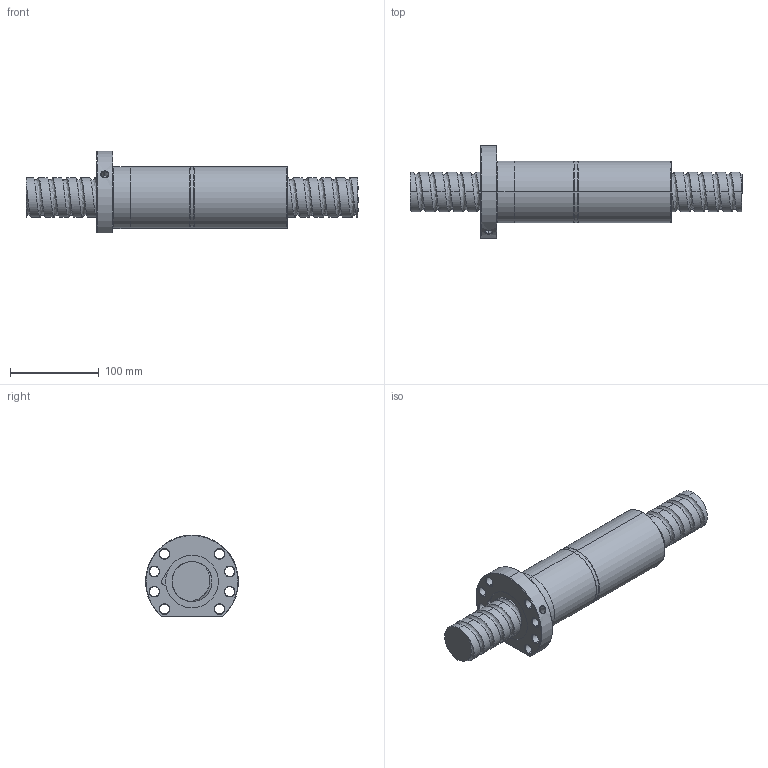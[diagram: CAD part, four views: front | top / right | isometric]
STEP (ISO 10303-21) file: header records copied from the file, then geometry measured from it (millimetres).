
FILE_DESCRIPTION (( 'STEP AP214' ), '1' );
FILE_NAME ('FDDC04516T5-F-B.STEP', '2010-07-07T01:48:18', ( 'XPAUTO' ), ( 'XPAUTO' ), 'SwSTEP 2.0', 'SolidWorks 2007', '' );
FILE_SCHEMA (( 'AUTOMOTIVE_DESIGN' ));
Products named in the file (3): FDDC04516T5-F-B; FDDC04516T5-F-B.sldasm-Part-2_預設; FDDC04516T5-F-B.sldasm-Part-1_預設
Assembly tree (2 placements, depth 2):
  FDDC04516T5-F-B
    FDDC04516T5-F-B.sldasm-Part-2_預設
    FDDC04516T5-F-B.sldasm-Part-1_預設
Bounding box: 375 x 105 x 92.5 mm (x, y, z)
Volume: 1099454.9 mm3; surface area: 159079.1 mm2
Topology: 2 solids, 2 shells, 159 faces, 398 edges, 248 vertices
Faces by surface type: cylinder 94, cone 32, plane 19, torus 9, bspline 5
Entity records: 46653 total; most frequent: CARTESIAN_POINT 42877, ORIENTED_EDGE 796, DIRECTION 736, EDGE_CURVE 398, AXIS2_PLACEMENT_3D 299, VERTEX_POINT 248, EDGE_LOOP 184, ADVANCED_FACE 159
